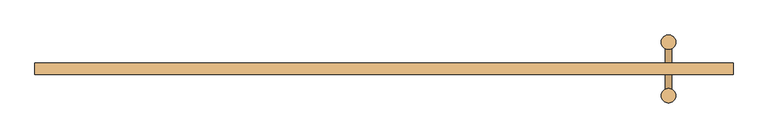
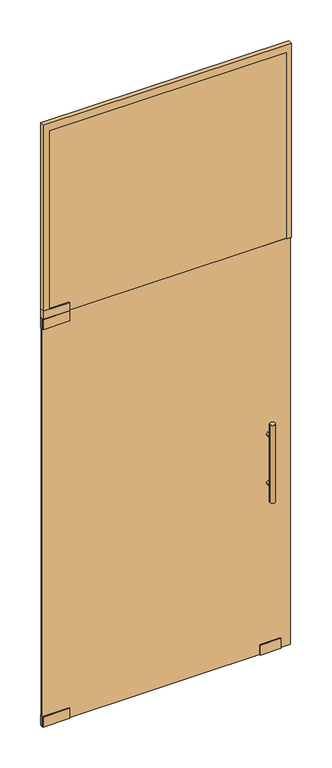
"""IFC4 building model written with IfcOpenShell, lengths in millimetres: door geometry, V03 VIDRIO PUERTA BATIENTE VIDRIO FIJO SUPERIOR : V03.2 VIDRIO PUERTA BATIENTE VIDRIO FIJO SUPERIOR 105x310."""

from ifc_helpers import new_model, si_unit, point, frame, frame_2d, origin, origin_with_axes, place, context, project, spatial, polyline, circle_curve, trimmed, segment, composite_curve, outline, extrude, source, transform, mapped, element, save


def door_8d857a0f(model_context):
    return source(origin(), model_context, "Body", "SweptSolid", [
        extrude(outline(polyline([(-665.0, 10.0), (-665.0, -10.0), (-795.0, -10.0), (-795.0, 10.0), (-665.0, 10.0)])), frame((0.0, 0.0, 2048.0), z_axis=(0.0, 0.0, 1.0), x_axis=(1.0, 0.0, 0.0)), (0.0, 0.0, 1.0), 52.0),
        extrude(outline(polyline([(-665.0, 10.0), (-665.0, -10.0), (-795.0, -10.0), (-795.0, 10.0), (-665.0, 10.0)])), frame((0.0, 0.0, 2100.0), z_axis=(0.0, 0.0, 1.0), x_axis=(1.0, 0.0, 0.0)), (0.0, 0.0, 1.0), 42.0),
        extrude(outline(composite_curve([segment(trimmed(circle_curve(frame_2d((1125.0, 303.0)), 6.0), [point((1125.0, 297.0))], [point((1125.0, 309.0))], False, "CARTESIAN"), True, "CONTINUOUS"), segment(trimmed(circle_curve(frame_2d((1125.0, 303.0)), 6.0), [point((1125.0, 309.0))], [point((1125.0, 297.0))], False, "CARTESIAN"), True, "CONTINUOUS")], self_intersect=False)), frame((0.0, -36.0, 0.0), z_axis=(0.0, 1.0, 0.0), x_axis=(0.0, 0.0, 1.0)), (0.0, 0.0, 1.0), 72.0),
        extrude(outline(composite_curve([segment(trimmed(circle_curve(frame_2d((875.0, 303.0)), 6.0), [point((875.0, 297.0))], [point((875.0, 309.0))], False, "CARTESIAN"), True, "CONTINUOUS"), segment(trimmed(circle_curve(frame_2d((875.0, 303.0)), 6.0), [point((875.0, 309.0))], [point((875.0, 297.0))], False, "CARTESIAN"), True, "CONTINUOUS")], self_intersect=False)), frame((0.0, -36.0, 0.0), z_axis=(0.0, 1.0, 0.0), x_axis=(0.0, 0.0, 1.0)), (0.0, 0.0, 1.0), 72.0),
        extrude(outline(composite_curve([segment(trimmed(circle_curve(frame_2d((303.0, -46.5)), 12.5), [point((290.5, -46.5))], [point((315.5, -46.5))], False, "CARTESIAN"), True, "CONTINUOUS"), segment(trimmed(circle_curve(frame_2d((303.0, -46.5)), 12.5), [point((315.5, -46.5))], [point((290.5, -46.5))], False, "CARTESIAN"), True, "CONTINUOUS")], self_intersect=False)), frame((0.0, 0.0, 800.0), z_axis=(0.0, 0.0, 1.0), x_axis=(1.0, 0.0, 0.0)), (0.0, 0.0, 1.0), 400.0),
        extrude(outline(composite_curve([segment(trimmed(circle_curve(frame_2d((303.0, 46.5)), 12.5), [point((290.5, 46.5))], [point((315.5, 46.5))], False, "CARTESIAN"), True, "CONTINUOUS"), segment(trimmed(circle_curve(frame_2d((303.0, 46.5)), 12.5), [point((315.5, 46.5))], [point((290.5, 46.5))], False, "CARTESIAN"), True, "CONTINUOUS")], self_intersect=False)), frame((0.0, 0.0, 800.0), z_axis=(0.0, 0.0, 1.0), x_axis=(1.0, 0.0, 0.0)), (0.0, 0.0, 1.0), 400.0),
        extrude(outline(polyline([(365.0, 10.0), (365.0, -10.0), (265.0, -10.0), (265.0, 10.0), (365.0, 10.0)])), origin_with_axes(), (0.0, 0.0, 1.0), 52.0),
        extrude(outline(polyline([(-665.0, 10.0), (-665.0, -10.0), (-795.0, -10.0), (-795.0, 10.0), (-665.0, 10.0)])), origin_with_axes(), (0.0, 0.0, 1.0), 52.0),
        extrude(outline(polyline([(3060.0, 395.0), (3060.0, -764.0052778), (2120.0, -764.0052778), (2100.0, -764.0052778), (2100.0, 395.0), (3060.0, 395.0)])), frame((0.0, -5.0, 0.0), z_axis=(0.0, 1.0, 0.0), x_axis=(0.0, 0.0, 1.0)), (0.0, 0.0, 1.0), 10.0),
        extrude(outline(polyline([(3100.0, -795.0), (2120.0, -795.0), (2120.0, -764.0052778), (3060.0, -764.0052778), (3060.0, 395.0), (2100.0, 395.0), (2100.0, 415.0), (3100.0, 415.0), (3100.0, -795.0)])), frame((0.0, -10.0, 0.0), z_axis=(0.0, 1.0, 0.0), x_axis=(0.0, 0.0, 1.0)), (0.0, 0.0, 1.0), 20.0),
        extrude(outline(polyline([(415.0, 5.0), (415.0, -5.0), (-795.0, -5.0), (-795.0, 5.0), (415.0, 5.0)])), origin_with_axes(), (0.0, 0.0, 1.0), 2100.0),
    ])


if __name__ == "__main__":
    model = new_model("IFC4")
    model_context = context("Model", 3, world=origin())
    ifc_project = project(units=[si_unit("LENGTHUNIT", "METRE", prefix="MILLI")], contexts=[model_context])
    site = spatial("IfcSite", under=ifc_project)
    building = spatial("IfcBuilding", under=site)
    placement = place(None, origin())
    door_shape = door_8d857a0f(model_context)
    element("IfcDoor", 1, ObjectType="V03 VIDRIO PUERTA BATIENTE VIDRIO FIJO SUPERIOR : V03.2 VIDRIO PUERTA BATIENTE VIDRIO FIJO SUPERIOR 105x310", at=placement, inside=building, context=model_context, shape_type="MappedRepresentation", body=[
        mapped(door_shape, transform((0.0, 0.0, 0.0), x_axis=(1.0, 0.0, 0.0), y_axis=(0.0, 1.0, 0.0), z_axis=(0.0, 0.0, 1.0))),
    ])
    save(model, "model.ifc")
